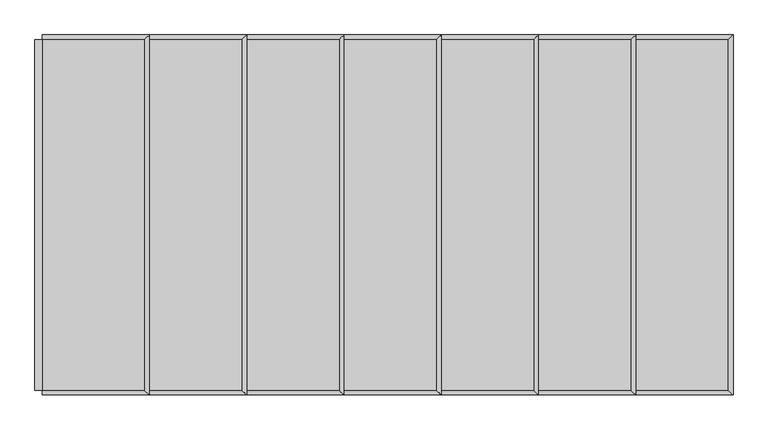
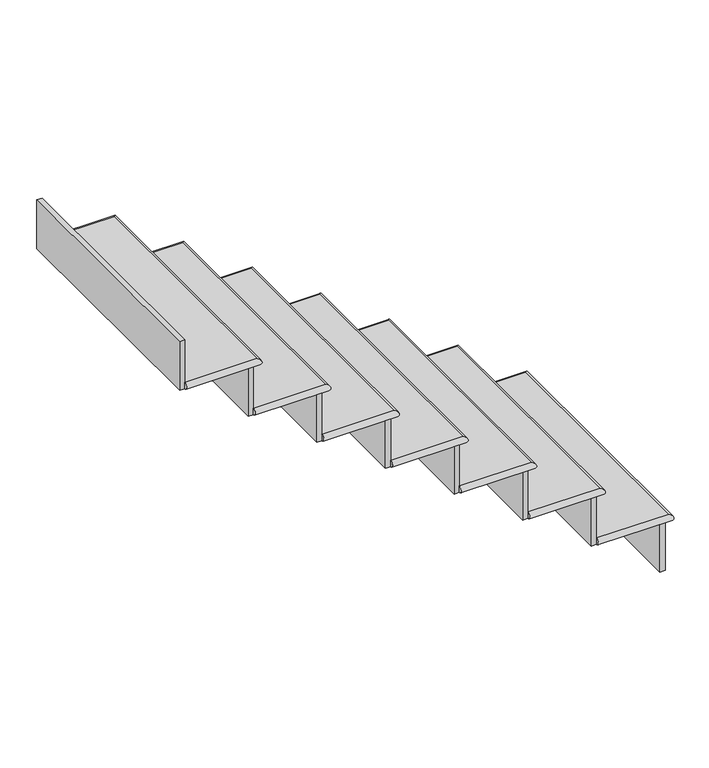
"""IFC4 building model written with IfcOpenShell, lengths in millimetres: stair flight geometry."""

from ifc_helpers import new_model, si_unit, frame, origin, place, context, project, spatial, circle_curve, ellipse_curve, faceted_brep, source, transform, mapped, element, save
from ifc_brep_helpers import plane_surface, cylinder_surface, advanced_brep


def stair_flight_be95155a(model_context):
    return source(origin(), model_context, "Body", "SolidModel", [
        advanced_brep(
        [(-16016.7481446, 6089.5128094, 1689.1), (-16016.7481446, 6089.5128094, 1714.5), (-16016.7481446, 5175.1128094, 1714.5), (-16016.7481446, 5175.1128094, 1689.1), (-16283.4481446, 6089.5128094, 1714.5), (-16283.4481446, 5175.1128094, 1714.5), (-16283.4481446, 5175.1128094, 1689.1), (-16283.4481446, 6089.5128094, 1689.1)],
        [
            (0, 1, ellipse_curve(frame((-16016.7481446, 6089.5128094, 1701.8), z_axis=(0.7071067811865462, -0.7071067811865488, 0.0), x_axis=(0.7071067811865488, 0.7071067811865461, 0.0)), 17.9605122, 12.7)),
            (1, 2),
            (2, 3, ellipse_curve(frame((-16016.7481446, 5175.1128094, 1701.8), z_axis=(0.7071067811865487, 0.7071067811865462, 0.0), x_axis=(-0.7071067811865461, 0.7071067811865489, 0.0)), 17.9605122, 12.7)),
            (3, 0),
            (4, 5),
            (5, 2),
            (1, 4),
            (6, 7),
            (7, 0),
            (3, 6),
            (4, 7, circle_curve(frame((-16283.4481446, 6089.5128094, 1701.8), z_axis=(-1.0, 0.0, 0.0), x_axis=(0.0, -1.0, 0.0)), 12.7)),
            (6, 5, circle_curve(frame((-16283.4481446, 5175.1128094, 1701.8), z_axis=(-1.0, 0.0, 0.0), x_axis=(0.0, 1.0, 0.0)), 12.7)),
        ],
        [
            cylinder_surface(frame((-16016.7481446, 6089.5128094, 1701.8), z_axis=(0.0, 1.0, 0.0), x_axis=(-1.0, 0.0, 0.0)), 12.7),
            plane_surface(frame((-16004.0481446, 5175.1128094, 1714.5), z_axis=(0.0, 0.0, 1.0), x_axis=(1.0, 0.0, 0.0))),
            plane_surface(frame((-16004.0481446, 5175.1128094, 1689.1), z_axis=(0.0, 0.0, -1.0), x_axis=(-1.0, 0.0, 0.0))),
            plane_surface(frame((-16283.4481446, 6089.5128094, 1714.5), z_axis=(-1.0, 0.0, 0.0), x_axis=(0.0, 0.0, -1.0))),
            cylinder_surface(frame((-16283.4481446, 6089.5128094, 1701.8), z_axis=(-1.0, 0.0, 0.0), x_axis=(0.0, -1.0, 0.0)), 12.7),
            cylinder_surface(frame((-16016.7481446, 5175.1128094, 1701.8), z_axis=(1.0, 0.0, 0.0), x_axis=(0.0, 1.0, 0.0)), 12.7),
        ],
        [
            (0, [[1, 2, 3, 4]]),
            (1, [[5, 6, -2, 7]]),
            (2, [[8, 9, -4, 10]]),
            (3, [[-5, 11, -8, 12]]),
            (4, [[-11, -7, -1, -9]]),
            (5, [[-3, -6, -12, -10]]),
        ],
    ),
        faceted_brep([(-16029.4481446, 6089.5128094, 1689.1), (-16029.4481446, 6089.5128094, 1498.6), (-16048.4981446, 6089.5128094, 1498.6), (-16048.4981446, 6089.5128094, 1689.1), (-16029.4481446, 5175.1128094, 1689.1), (-16048.4981446, 5175.1128094, 1689.1), (-16048.4981446, 5175.1128094, 1498.6), (-16029.4481446, 5175.1128094, 1498.6)], [[[0, 1, 2, 3]], [[4, 5, 6, 7]], [[1, 0, 4, 7]], [[2, 1, 7, 6]], [[3, 2, 6, 5]], [[0, 3, 5, 4]]]),
        faceted_brep([(-16283.4481446, 6089.5128094, 1879.6), (-16283.4481446, 6089.5128094, 1689.1), (-16302.4981446, 6089.5128094, 1689.1), (-16302.4981446, 6089.5128094, 1879.6), (-16283.4481446, 5175.1128094, 1879.6), (-16302.4981446, 5175.1128094, 1879.6), (-16302.4981446, 5175.1128094, 1689.1), (-16283.4481446, 5175.1128094, 1689.1)], [[[0, 1, 2, 3]], [[4, 5, 6, 7]], [[1, 0, 4, 7]], [[2, 1, 7, 6]], [[3, 2, 6, 5]], [[0, 3, 5, 4]]]),
        advanced_brep(
        [(-16537.4481446, 6089.5128094, 1905.0), (-16537.4481446, 5175.1128094, 1905.0), (-16270.7481446, 5175.1128094, 1905.0), (-16270.7481446, 6089.5128094, 1905.0), (-16537.4481446, 5175.1128094, 1879.6), (-16537.4481446, 6089.5128094, 1879.6), (-16270.7481446, 6089.5128094, 1879.6), (-16270.7481446, 5175.1128094, 1879.6)],
        [
            (0, 1),
            (1, 2),
            (2, 3),
            (3, 0),
            (4, 5),
            (5, 6),
            (6, 7),
            (7, 4),
            (0, 5, circle_curve(frame((-16537.4481446, 6089.5128094, 1892.3), z_axis=(-1.0, 0.0, 0.0), x_axis=(0.0, -1.0, 0.0)), 12.7)),
            (4, 1, circle_curve(frame((-16537.4481446, 5175.1128094, 1892.3), z_axis=(-1.0, 0.0, 0.0), x_axis=(0.0, 1.0, 0.0)), 12.7)),
            (6, 3, ellipse_curve(frame((-16270.7481446, 6089.5128094, 1892.3), z_axis=(0.7071067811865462, -0.7071067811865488, 0.0), x_axis=(0.7071067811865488, 0.7071067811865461, 0.0)), 17.9605122, 12.7)),
            (2, 7, ellipse_curve(frame((-16270.7481446, 5175.1128094, 1892.3), z_axis=(0.7071067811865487, 0.7071067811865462, 0.0), x_axis=(-0.7071067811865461, 0.7071067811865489, 0.0)), 17.9605122, 12.7)),
        ],
        [
            plane_surface(frame((-16258.0481446, 5175.1128094, 1905.0), z_axis=(0.0, 0.0, 1.0), x_axis=(1.0, 0.0, 0.0))),
            plane_surface(frame((-16258.0481446, 5175.1128094, 1879.6), z_axis=(0.0, 0.0, -1.0), x_axis=(-1.0, 0.0, 0.0))),
            plane_surface(frame((-16537.4481446, 6089.5128094, 1905.0), z_axis=(-1.0, 0.0, 0.0), x_axis=(0.0, 0.0, -1.0))),
            cylinder_surface(frame((-16270.7481446, 6089.5128094, 1892.3), z_axis=(0.0, 1.0, 0.0), x_axis=(-1.0, 0.0, 0.0)), 12.7),
            cylinder_surface(frame((-16537.4481446, 6089.5128094, 1892.3), z_axis=(-1.0, 0.0, 0.0), x_axis=(0.0, -1.0, 0.0)), 12.7),
            cylinder_surface(frame((-16270.7481446, 5175.1128094, 1892.3), z_axis=(1.0, 0.0, 0.0), x_axis=(0.0, 1.0, 0.0)), 12.7),
        ],
        [
            (0, [[1, 2, 3, 4]]),
            (1, [[5, 6, 7, 8]]),
            (2, [[-1, 9, -5, 10]]),
            (3, [[11, -3, 12, -7]]),
            (4, [[-9, -4, -11, -6]]),
            (5, [[-12, -2, -10, -8]]),
        ],
    ),
        faceted_brep([(-16537.4481446, 6089.5128094, 2070.1), (-16537.4481446, 6089.5128094, 1879.6), (-16556.4981446, 6089.5128094, 1879.6), (-16556.4981446, 6089.5128094, 2070.1), (-16537.4481446, 5175.1128094, 2070.1), (-16556.4981446, 5175.1128094, 2070.1), (-16556.4981446, 5175.1128094, 1879.6), (-16537.4481446, 5175.1128094, 1879.6)], [[[0, 1, 2, 3]], [[4, 5, 6, 7]], [[1, 0, 4, 7]], [[2, 1, 7, 6]], [[3, 2, 6, 5]], [[0, 3, 5, 4]]]),
        advanced_brep(
        [(-16791.4481446, 6089.5128094, 2095.5), (-16791.4481446, 5175.1128094, 2095.5), (-16524.7481446, 5175.1128094, 2095.5), (-16524.7481446, 6089.5128094, 2095.5), (-16791.4481446, 5175.1128094, 2070.1), (-16791.4481446, 6089.5128094, 2070.1), (-16524.7481446, 6089.5128094, 2070.1), (-16524.7481446, 5175.1128094, 2070.1)],
        [
            (0, 1),
            (1, 2),
            (2, 3),
            (3, 0),
            (4, 5),
            (5, 6),
            (6, 7),
            (7, 4),
            (0, 5, circle_curve(frame((-16791.4481446, 6089.5128094, 2082.8), z_axis=(-1.0, 0.0, 0.0), x_axis=(0.0, -1.0, 0.0)), 12.7)),
            (4, 1, circle_curve(frame((-16791.4481446, 5175.1128094, 2082.8), z_axis=(-1.0, 0.0, 0.0), x_axis=(0.0, 1.0, 0.0)), 12.7)),
            (6, 3, ellipse_curve(frame((-16524.7481446, 6089.5128094, 2082.8), z_axis=(0.7071067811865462, -0.7071067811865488, 0.0), x_axis=(0.7071067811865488, 0.7071067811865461, 0.0)), 17.9605122, 12.7)),
            (2, 7, ellipse_curve(frame((-16524.7481446, 5175.1128094, 2082.8), z_axis=(0.7071067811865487, 0.7071067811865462, 0.0), x_axis=(-0.7071067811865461, 0.7071067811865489, 0.0)), 17.9605122, 12.7)),
        ],
        [
            plane_surface(frame((-16512.0481446, 5175.1128094, 2095.5), z_axis=(0.0, 0.0, 1.0), x_axis=(1.0, 0.0, 0.0))),
            plane_surface(frame((-16512.0481446, 5175.1128094, 2070.1), z_axis=(0.0, 0.0, -1.0), x_axis=(-1.0, 0.0, 0.0))),
            plane_surface(frame((-16791.4481446, 6089.5128094, 2095.5), z_axis=(-1.0, 0.0, 0.0), x_axis=(0.0, 0.0, -1.0))),
            cylinder_surface(frame((-16524.7481446, 6089.5128094, 2082.8), z_axis=(0.0, 1.0, 0.0), x_axis=(-1.0, 0.0, 0.0)), 12.7),
            cylinder_surface(frame((-16791.4481446, 6089.5128094, 2082.8), z_axis=(-1.0, 0.0, 0.0), x_axis=(0.0, -1.0, 0.0)), 12.7),
            cylinder_surface(frame((-16524.7481446, 5175.1128094, 2082.8), z_axis=(1.0, 0.0, 0.0), x_axis=(0.0, 1.0, 0.0)), 12.7),
        ],
        [
            (0, [[1, 2, 3, 4]]),
            (1, [[5, 6, 7, 8]]),
            (2, [[-1, 9, -5, 10]]),
            (3, [[11, -3, 12, -7]]),
            (4, [[-9, -4, -11, -6]]),
            (5, [[-12, -2, -10, -8]]),
        ],
    ),
        faceted_brep([(-16791.4481446, 6089.5128094, 2260.6), (-16791.4481446, 6089.5128094, 2070.1), (-16810.4981446, 6089.5128094, 2070.1), (-16810.4981446, 6089.5128094, 2260.6), (-16791.4481446, 5175.1128094, 2260.6), (-16810.4981446, 5175.1128094, 2260.6), (-16810.4981446, 5175.1128094, 2070.1), (-16791.4481446, 5175.1128094, 2070.1)], [[[0, 1, 2, 3]], [[4, 5, 6, 7]], [[1, 0, 4, 7]], [[2, 1, 7, 6]], [[3, 2, 6, 5]], [[0, 3, 5, 4]]]),
        advanced_brep(
        [(-17045.4481446, 6089.5128094, 2286.0), (-17045.4481446, 5175.1128094, 2286.0), (-16778.7481446, 5175.1128094, 2286.0), (-16778.7481446, 6089.5128094, 2286.0), (-17045.4481446, 5175.1128094, 2260.6), (-17045.4481446, 6089.5128094, 2260.6), (-16778.7481446, 6089.5128094, 2260.6), (-16778.7481446, 5175.1128094, 2260.6)],
        [
            (0, 1),
            (1, 2),
            (2, 3),
            (3, 0),
            (4, 5),
            (5, 6),
            (6, 7),
            (7, 4),
            (0, 5, circle_curve(frame((-17045.4481446, 6089.5128094, 2273.3), z_axis=(-1.0, 0.0, 0.0), x_axis=(0.0, -1.0, 0.0)), 12.7)),
            (4, 1, circle_curve(frame((-17045.4481446, 5175.1128094, 2273.3), z_axis=(-1.0, 0.0, 0.0), x_axis=(0.0, 1.0, 0.0)), 12.7)),
            (6, 3, ellipse_curve(frame((-16778.7481446, 6089.5128094, 2273.3), z_axis=(0.7071067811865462, -0.7071067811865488, 0.0), x_axis=(0.7071067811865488, 0.7071067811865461, 0.0)), 17.9605122, 12.7)),
            (2, 7, ellipse_curve(frame((-16778.7481446, 5175.1128094, 2273.3), z_axis=(0.7071067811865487, 0.7071067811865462, 0.0), x_axis=(-0.7071067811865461, 0.7071067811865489, 0.0)), 17.9605122, 12.7)),
        ],
        [
            plane_surface(frame((-16766.0481446, 5175.1128094, 2286.0), z_axis=(0.0, 0.0, 1.0), x_axis=(1.0, 0.0, 0.0))),
            plane_surface(frame((-16766.0481446, 5175.1128094, 2260.6), z_axis=(0.0, 0.0, -1.0), x_axis=(-1.0, 0.0, 0.0))),
            plane_surface(frame((-17045.4481446, 6089.5128094, 2286.0), z_axis=(-1.0, 0.0, 0.0), x_axis=(0.0, 0.0, -1.0))),
            cylinder_surface(frame((-16778.7481446, 6089.5128094, 2273.3), z_axis=(0.0, 1.0, 0.0), x_axis=(-1.0, 0.0, 0.0)), 12.7),
            cylinder_surface(frame((-17045.4481446, 6089.5128094, 2273.3), z_axis=(-1.0, 0.0, 0.0), x_axis=(0.0, -1.0, 0.0)), 12.7),
            cylinder_surface(frame((-16778.7481446, 5175.1128094, 2273.3), z_axis=(1.0, 0.0, 0.0), x_axis=(0.0, 1.0, 0.0)), 12.7),
        ],
        [
            (0, [[1, 2, 3, 4]]),
            (1, [[5, 6, 7, 8]]),
            (2, [[-1, 9, -5, 10]]),
            (3, [[11, -3, 12, -7]]),
            (4, [[-9, -4, -11, -6]]),
            (5, [[-12, -2, -10, -8]]),
        ],
    ),
        faceted_brep([(-17045.4481446, 6089.5128094, 2451.1), (-17045.4481446, 6089.5128094, 2260.6), (-17064.4981446, 6089.5128094, 2260.6), (-17064.4981446, 6089.5128094, 2451.1), (-17045.4481446, 5175.1128094, 2451.1), (-17064.4981446, 5175.1128094, 2451.1), (-17064.4981446, 5175.1128094, 2260.6), (-17045.4481446, 5175.1128094, 2260.6)], [[[0, 1, 2, 3]], [[4, 5, 6, 7]], [[1, 0, 4, 7]], [[2, 1, 7, 6]], [[3, 2, 6, 5]], [[0, 3, 5, 4]]]),
        advanced_brep(
        [(-17299.4481446, 6089.5128094, 2476.5), (-17299.4481446, 5175.1128094, 2476.5), (-17032.7481446, 5175.1128094, 2476.5), (-17032.7481446, 6089.5128094, 2476.5), (-17299.4481446, 5175.1128094, 2451.1), (-17299.4481446, 6089.5128094, 2451.1), (-17032.7481446, 6089.5128094, 2451.1), (-17032.7481446, 5175.1128094, 2451.1)],
        [
            (0, 1),
            (1, 2),
            (2, 3),
            (3, 0),
            (4, 5),
            (5, 6),
            (6, 7),
            (7, 4),
            (0, 5, circle_curve(frame((-17299.4481446, 6089.5128094, 2463.8), z_axis=(-1.0, 0.0, 0.0), x_axis=(0.0, -1.0, 0.0)), 12.7)),
            (4, 1, circle_curve(frame((-17299.4481446, 5175.1128094, 2463.8), z_axis=(-1.0, 0.0, 0.0), x_axis=(0.0, 1.0, 0.0)), 12.7)),
            (6, 3, ellipse_curve(frame((-17032.7481446, 6089.5128094, 2463.8), z_axis=(0.7071067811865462, -0.7071067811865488, 0.0), x_axis=(0.7071067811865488, 0.7071067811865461, 0.0)), 17.9605122, 12.7)),
            (2, 7, ellipse_curve(frame((-17032.7481446, 5175.1128094, 2463.8), z_axis=(0.7071067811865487, 0.7071067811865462, 0.0), x_axis=(-0.7071067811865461, 0.7071067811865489, 0.0)), 17.9605122, 12.7)),
        ],
        [
            plane_surface(frame((-17020.0481446, 5175.1128094, 2476.5), z_axis=(0.0, 0.0, 1.0), x_axis=(1.0, 0.0, 0.0))),
            plane_surface(frame((-17020.0481446, 5175.1128094, 2451.1), z_axis=(0.0, 0.0, -1.0), x_axis=(-1.0, 0.0, 0.0))),
            plane_surface(frame((-17299.4481446, 6089.5128094, 2476.5), z_axis=(-1.0, 0.0, 0.0), x_axis=(0.0, 0.0, -1.0))),
            cylinder_surface(frame((-17032.7481446, 6089.5128094, 2463.8), z_axis=(0.0, 1.0, 0.0), x_axis=(-1.0, 0.0, 0.0)), 12.7),
            cylinder_surface(frame((-17299.4481446, 6089.5128094, 2463.8), z_axis=(-1.0, 0.0, 0.0), x_axis=(0.0, -1.0, 0.0)), 12.7),
            cylinder_surface(frame((-17032.7481446, 5175.1128094, 2463.8), z_axis=(1.0, 0.0, 0.0), x_axis=(0.0, 1.0, 0.0)), 12.7),
        ],
        [
            (0, [[1, 2, 3, 4]]),
            (1, [[5, 6, 7, 8]]),
            (2, [[-1, 9, -5, 10]]),
            (3, [[11, -3, 12, -7]]),
            (4, [[-9, -4, -11, -6]]),
            (5, [[-12, -2, -10, -8]]),
        ],
    ),
        faceted_brep([(-17299.4481446, 6089.5128094, 2641.6), (-17299.4481446, 6089.5128094, 2451.1), (-17318.4981446, 6089.5128094, 2451.1), (-17318.4981446, 6089.5128094, 2641.6), (-17299.4481446, 5175.1128094, 2641.6), (-17318.4981446, 5175.1128094, 2641.6), (-17318.4981446, 5175.1128094, 2451.1), (-17299.4481446, 5175.1128094, 2451.1)], [[[0, 1, 2, 3]], [[4, 5, 6, 7]], [[1, 0, 4, 7]], [[2, 1, 7, 6]], [[3, 2, 6, 5]], [[0, 3, 5, 4]]]),
        advanced_brep(
        [(-17553.4481446, 6089.5128094, 2667.0), (-17553.4481446, 5175.1128094, 2667.0), (-17286.7481446, 5175.1128094, 2667.0), (-17286.7481446, 6089.5128094, 2667.0), (-17553.4481446, 5175.1128094, 2641.6), (-17553.4481446, 6089.5128094, 2641.6), (-17286.7481446, 6089.5128094, 2641.6), (-17286.7481446, 5175.1128094, 2641.6)],
        [
            (0, 1),
            (1, 2),
            (2, 3),
            (3, 0),
            (4, 5),
            (5, 6),
            (6, 7),
            (7, 4),
            (0, 5, circle_curve(frame((-17553.4481446, 6089.5128094, 2654.3), z_axis=(-1.0, 0.0, 0.0), x_axis=(0.0, -1.0, 0.0)), 12.7)),
            (4, 1, circle_curve(frame((-17553.4481446, 5175.1128094, 2654.3), z_axis=(-1.0, 0.0, 0.0), x_axis=(0.0, 1.0, 0.0)), 12.7)),
            (6, 3, ellipse_curve(frame((-17286.7481446, 6089.5128094, 2654.3), z_axis=(0.7071067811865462, -0.7071067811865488, 0.0), x_axis=(0.7071067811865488, 0.7071067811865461, 0.0)), 17.9605122, 12.7)),
            (2, 7, ellipse_curve(frame((-17286.7481446, 5175.1128094, 2654.3), z_axis=(0.7071067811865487, 0.7071067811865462, 0.0), x_axis=(-0.7071067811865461, 0.7071067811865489, 0.0)), 17.9605122, 12.7)),
        ],
        [
            plane_surface(frame((-17274.0481446, 5175.1128094, 2667.0), z_axis=(0.0, 0.0, 1.0), x_axis=(1.0, 0.0, 0.0))),
            plane_surface(frame((-17274.0481446, 5175.1128094, 2641.6), z_axis=(0.0, 0.0, -1.0), x_axis=(-1.0, 0.0, 0.0))),
            plane_surface(frame((-17553.4481446, 6089.5128094, 2667.0), z_axis=(-1.0, 0.0, 0.0), x_axis=(0.0, 0.0, -1.0))),
            cylinder_surface(frame((-17286.7481446, 6089.5128094, 2654.3), z_axis=(0.0, 1.0, 0.0), x_axis=(-1.0, 0.0, 0.0)), 12.7),
            cylinder_surface(frame((-17553.4481446, 6089.5128094, 2654.3), z_axis=(-1.0, 0.0, 0.0), x_axis=(0.0, -1.0, 0.0)), 12.7),
            cylinder_surface(frame((-17286.7481446, 5175.1128094, 2654.3), z_axis=(1.0, 0.0, 0.0), x_axis=(0.0, 1.0, 0.0)), 12.7),
        ],
        [
            (0, [[1, 2, 3, 4]]),
            (1, [[5, 6, 7, 8]]),
            (2, [[-1, 9, -5, 10]]),
            (3, [[11, -3, 12, -7]]),
            (4, [[-9, -4, -11, -6]]),
            (5, [[-12, -2, -10, -8]]),
        ],
    ),
        faceted_brep([(-17553.4481446, 6089.5128094, 2832.1), (-17553.4481446, 6089.5128094, 2641.6), (-17572.4981446, 6089.5128094, 2641.6), (-17572.4981446, 6089.5128094, 2832.1), (-17553.4481446, 5175.1128094, 2832.1), (-17572.4981446, 5175.1128094, 2832.1), (-17572.4981446, 5175.1128094, 2641.6), (-17553.4481446, 5175.1128094, 2641.6)], [[[0, 1, 2, 3]], [[4, 5, 6, 7]], [[1, 0, 4, 7]], [[2, 1, 7, 6]], [[3, 2, 6, 5]], [[0, 3, 5, 4]]]),
        faceted_brep([(-17807.4481446, 6089.5128094, 3022.6), (-17807.4481446, 6089.5128094, 2832.1), (-17826.4981446, 6089.5128094, 2832.1), (-17826.4981446, 6089.5128094, 3022.6), (-17807.4481446, 5175.1128094, 3022.6), (-17826.4981446, 5175.1128094, 3022.6), (-17826.4981446, 5175.1128094, 2832.1), (-17807.4481446, 5175.1128094, 2832.1)], [[[0, 1, 2, 3]], [[4, 5, 6, 7]], [[1, 0, 4, 7]], [[2, 1, 7, 6]], [[3, 2, 6, 5]], [[0, 3, 5, 4]]]),
        advanced_brep(
        [(-17807.4481446, 6089.5128094, 2857.5), (-17807.4481446, 5175.1128094, 2857.5), (-17540.7481446, 5175.1128094, 2857.5), (-17540.7481446, 6089.5128094, 2857.5), (-17807.4481446, 5175.1128094, 2832.1), (-17807.4481446, 6089.5128094, 2832.1), (-17540.7481446, 6089.5128094, 2832.1), (-17540.7481446, 5175.1128094, 2832.1)],
        [
            (0, 1),
            (1, 2),
            (2, 3),
            (3, 0),
            (4, 5),
            (5, 6),
            (6, 7),
            (7, 4),
            (0, 5, circle_curve(frame((-17807.4481446, 6089.5128094, 2844.8), z_axis=(-1.0, 0.0, 0.0), x_axis=(0.0, -1.0, 0.0)), 12.7)),
            (4, 1, circle_curve(frame((-17807.4481446, 5175.1128094, 2844.8), z_axis=(-1.0, 0.0, 0.0), x_axis=(0.0, 1.0, 0.0)), 12.7)),
            (6, 3, ellipse_curve(frame((-17540.7481446, 6089.5128094, 2844.8), z_axis=(0.7071067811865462, -0.7071067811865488, 0.0), x_axis=(0.7071067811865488, 0.7071067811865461, 0.0)), 17.9605122, 12.7)),
            (2, 7, ellipse_curve(frame((-17540.7481446, 5175.1128094, 2844.8), z_axis=(0.7071067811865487, 0.7071067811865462, 0.0), x_axis=(-0.7071067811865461, 0.7071067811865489, 0.0)), 17.9605122, 12.7)),
        ],
        [
            plane_surface(frame((-17528.0481446, 5175.1128094, 2857.5), z_axis=(0.0, 0.0, 1.0), x_axis=(1.0, 0.0, 0.0))),
            plane_surface(frame((-17528.0481446, 5175.1128094, 2832.1), z_axis=(0.0, 0.0, -1.0), x_axis=(-1.0, 0.0, 0.0))),
            plane_surface(frame((-17807.4481446, 6089.5128094, 2857.5), z_axis=(-1.0, 0.0, 0.0), x_axis=(0.0, 0.0, -1.0))),
            cylinder_surface(frame((-17540.7481446, 6089.5128094, 2844.8), z_axis=(0.0, 1.0, 0.0), x_axis=(-1.0, 0.0, 0.0)), 12.7),
            cylinder_surface(frame((-17807.4481446, 6089.5128094, 2844.8), z_axis=(-1.0, 0.0, 0.0), x_axis=(0.0, -1.0, 0.0)), 12.7),
            cylinder_surface(frame((-17540.7481446, 5175.1128094, 2844.8), z_axis=(1.0, 0.0, 0.0), x_axis=(0.0, 1.0, 0.0)), 12.7),
        ],
        [
            (0, [[1, 2, 3, 4]]),
            (1, [[5, 6, 7, 8]]),
            (2, [[-1, 9, -5, 10]]),
            (3, [[11, -3, 12, -7]]),
            (4, [[-9, -4, -11, -6]]),
            (5, [[-12, -2, -10, -8]]),
        ],
    ),
    ])


if __name__ == "__main__":
    model = new_model("IFC4")
    model_context = context("Model", 3, world=origin())
    ifc_project = project(units=[si_unit("LENGTHUNIT", "METRE", prefix="MILLI")], contexts=[model_context])
    site = spatial("IfcSite", under=ifc_project)
    building = spatial("IfcBuilding", under=site)
    placement = place(None, origin())
    stair_flight_shape = stair_flight_be95155a(model_context)
    element("IfcStairFlight", 1, ObjectType="Unassigned Steps with 1\" Tread 1\" Nosing 3/4\" Riser (1)", at=placement, inside=building, context=model_context, shape_type="MappedRepresentation", body=[
        mapped(stair_flight_shape, transform((0.0, 0.0, 0.0), x_axis=(1.0, 0.0, 0.0), y_axis=(0.0, 1.0, 0.0), z_axis=(0.0, 0.0, 1.0))),
    ])
    save(model, "model.ifc")
